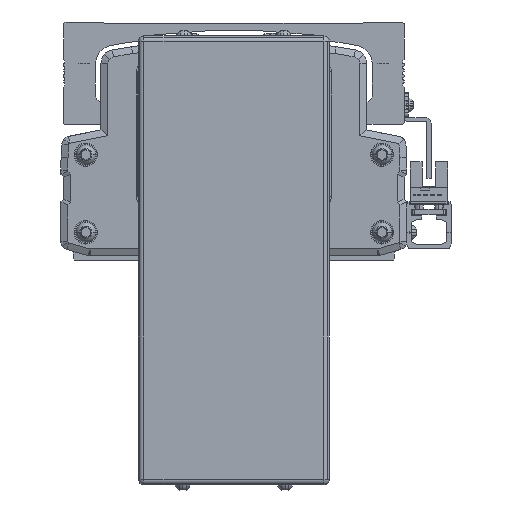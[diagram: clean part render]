
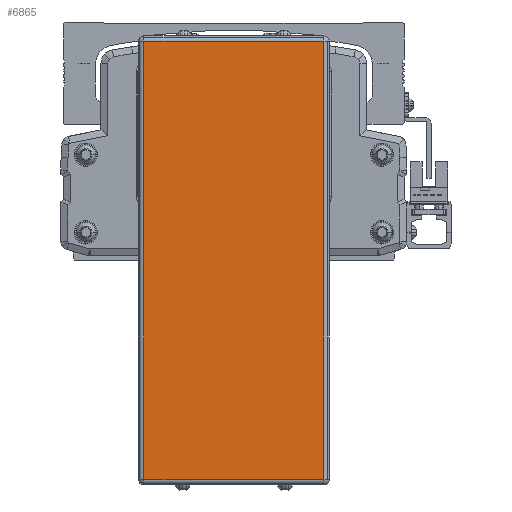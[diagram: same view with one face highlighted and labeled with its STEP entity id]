
A CAD part, front view. The second image highlights one B-rep face of the part: STEP entity #6865.
In plain terms, the highlighted planar face has unit normal (0, -1, 0).
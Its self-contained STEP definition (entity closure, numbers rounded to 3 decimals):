
#6865=ADVANCED_FACE('',(#14593),#14594,.T.);
#14593=FACE_OUTER_BOUND('',#24497,.T.);
#14594=PLANE('',#24498);
#24497=EDGE_LOOP('',(#44632,#44633,#44634,#44635));
#24498=AXIS2_PLACEMENT_3D('',#44636,#44637,#44638);
#44632=ORIENTED_EDGE('',*,*,#60946,.F.);
#44633=ORIENTED_EDGE('',*,*,#60947,.F.);
#44634=ORIENTED_EDGE('',*,*,#60948,.F.);
#44635=ORIENTED_EDGE('',*,*,#60949,.F.);
#44636=CARTESIAN_POINT('',(-299.996,-613.778,-49.1));
#44637=DIRECTION('',(0.,-1.0,0.));
#44638=DIRECTION('',(1.0,0.,0.));
#60946=EDGE_CURVE('',#74810,#74593,#75260,.T.);
#60947=EDGE_CURVE('',#63068,#74810,#75261,.T.);
#60948=EDGE_CURVE('',#75262,#63068,#75263,.T.);
#60949=EDGE_CURVE('',#74593,#75262,#75264,.T.);
#63068=VERTEX_POINT('',#77725);
#74593=VERTEX_POINT('',#94233);
#74810=VERTEX_POINT('',#94548);
#75260=LINE('',#95259,#95260);
#75261=LINE('',#95261,#95262);
#75262=VERTEX_POINT('',#95263);
#75263=LINE('',#95264,#95265);
#75264=LINE('',#95266,#95267);
#77725=CARTESIAN_POINT('',(-332.496,-613.778,30.));
#94233=CARTESIAN_POINT('',(-267.496,-613.778,-128.2));
#94548=CARTESIAN_POINT('',(-267.496,-613.778,30.));
#95259=CARTESIAN_POINT('',(-267.496,-613.778,-49.1));
#95260=VECTOR('',#108017,10.0);
#95261=CARTESIAN_POINT('',(-299.996,-613.778,30.));
#95262=VECTOR('',#108018,10.0);
#95263=CARTESIAN_POINT('',(-332.496,-613.778,-128.2));
#95264=CARTESIAN_POINT('',(-332.496,-613.778,-49.1));
#95265=VECTOR('',#108019,10.0);
#95266=CARTESIAN_POINT('',(-299.996,-613.778,-128.2));
#95267=VECTOR('',#108020,10.0);
#108017=DIRECTION('',(0.0,0.,-1.0));
#108018=DIRECTION('',(1.0,0.,0.));
#108019=DIRECTION('',(0.0,0.,1.0));
#108020=DIRECTION('',(-1.0,0.,0.));
